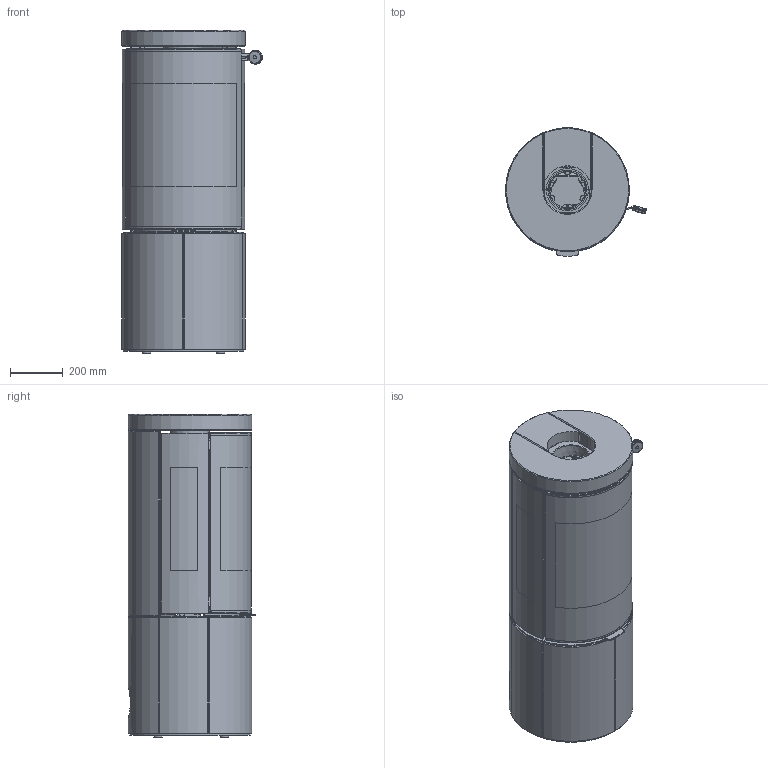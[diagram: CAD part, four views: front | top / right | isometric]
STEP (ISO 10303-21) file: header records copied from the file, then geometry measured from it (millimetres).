
FILE_DESCRIPTION(/* description */ (''),/* implementation_level */ '2;1');
FILE_NAME(/* name */ '474 Juno 120 L G.stp',/* time_stamp */ '2023-11-06T16:26:24+01:00',/* author */ ('ksj'),/* organization */ (''),/* preprocessor_version */ 'ST-DEVELOPER v19.2',/* originating_system */ 'Autodesk Inventor 2023',/* authorisation */ '');
FILE_SCHEMA (('AUTOMOTIVE_DESIGN { 1 0 10303 214 3 1 1 }'));
Products named in the file (1): 474 Juno 120 L G
Bounding box: 532.28 x 483.72 x 1223 mm (x, y, z)
Volume: 40621696.4 mm3; surface area: 8357646.1 mm2
Topology: 61 solids, 61 shells, 3066 faces, 8237 edges, 5297 vertices
Faces by surface type: plane 1935, cylinder 986, bspline 76, cone 36, torus 31, sphere 2
Full cylindrical faces by diameter (mm): 8 x4, 12 x1, 32 x4, 33.8 x2, 40 x2, 98.5 x1, 116 x1, 160 x1, 456 x1
Entity records: 105115 total; most frequent: CARTESIAN_POINT 23882, ORIENTED_EDGE 16470, DIRECTION 15943, EDGE_CURVE 8235, LINE 5801, VECTOR 5801, VERTEX_POINT 5293, AXIS2_PLACEMENT_3D 5071
